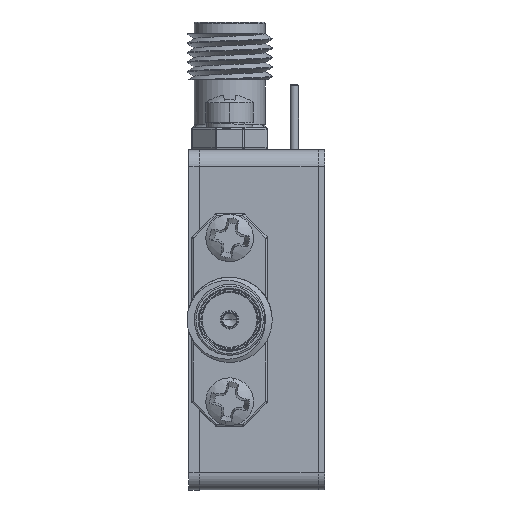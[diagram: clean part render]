
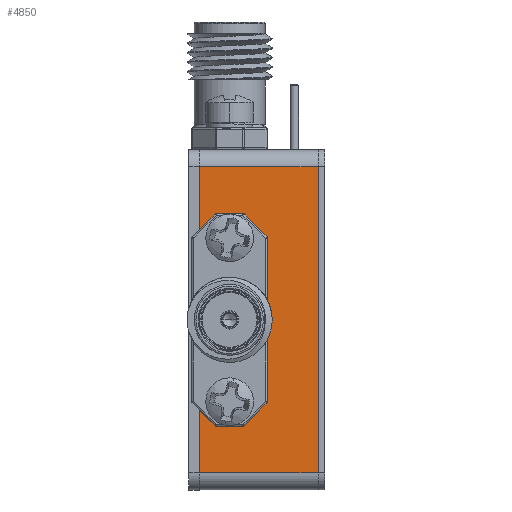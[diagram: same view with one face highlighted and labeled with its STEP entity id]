
A CAD part, left-side view. The second image highlights one B-rep face of the part: STEP entity #4850.
In plain terms, the highlighted planar face has unit normal (-1, 0, 0).
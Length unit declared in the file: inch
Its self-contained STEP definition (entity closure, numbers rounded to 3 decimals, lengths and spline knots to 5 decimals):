
#214 = AXIS2_PLACEMENT_3D ( 'NONE', #13794, #3948, #15444 ) ;
#245 = VERTEX_POINT ( 'NONE', #17155 ) ;
#404 = DIRECTION ( 'NONE',  ( -1., 0., 0. ) ) ;
#413 = DIRECTION ( 'NONE',  ( 0., 0., 1. ) ) ;
#769 = EDGE_LOOP ( 'NONE', ( #6585, #4241 ) ) ;
#1251 = DIRECTION ( 'NONE',  ( -1., 0., 0. ) ) ;
#1407 = EDGE_CURVE ( 'NONE', #6520, #12558, #18085, .T. ) ;
#1644 = EDGE_CURVE ( 'NONE', #12558, #13132, #5202, .T. ) ;
#1736 = CIRCLE ( 'NONE', #6338, 0.035 ) ;
#1832 = VECTOR ( 'NONE', #6078, 39.37008 ) ;
#2380 = CARTESIAN_POINT ( 'NONE',  ( -0.5, -0.089, 0. ) ) ;
#2520 = ORIENTED_EDGE ( 'NONE', *, *, #4336, .F. ) ;
#3089 = CARTESIAN_POINT ( 'NONE',  ( -0.5, 0., -0.45 ) ) ;
#3103 = EDGE_LOOP ( 'NONE', ( #6677, #18774 ) ) ;
#3257 = ORIENTED_EDGE ( 'NONE', *, *, #1407, .T. ) ;
#3661 = VERTEX_POINT ( 'NONE', #8922 ) ;
#3841 = FACE_BOUND ( 'NONE', #20204, .T. ) ;
#3948 = DIRECTION ( 'NONE',  ( -1., 0., 0. ) ) ;
#3987 = DIRECTION ( 'NONE',  ( 0., 0., 1. ) ) ;
#4006 = DIRECTION ( 'NONE',  ( 0., 0., 1. ) ) ;
#4171 = EDGE_CURVE ( 'NONE', #7587, #20452, #12606, .T. ) ;
#4201 = AXIS2_PLACEMENT_3D ( 'NONE', #2380, #13846, #4006 ) ;
#4241 = ORIENTED_EDGE ( 'NONE', *, *, #14787, .F. ) ;
#4336 = EDGE_CURVE ( 'NONE', #6520, #5820, #6166, .T. ) ;
#4850 = ADVANCED_FACE ( 'NONE', ( #16451, #20801, #3841, #17460 ), #12175, .T. ) ;
#5202 = LINE ( 'NONE', #20135, #13428 ) ;
#5494 = DIRECTION ( 'NONE',  ( -1., 0., 0. ) ) ;
#5514 = EDGE_CURVE ( 'NONE', #13132, #5820, #16941, .T. ) ;
#5646 = VERTEX_POINT ( 'NONE', #7198 ) ;
#5650 = AXIS2_PLACEMENT_3D ( 'NONE', #17000, #7144, #18670 ) ;
#5820 = VERTEX_POINT ( 'NONE', #15875 ) ;
#5915 = ORIENTED_EDGE ( 'NONE', *, *, #5514, .T. ) ;
#6078 = DIRECTION ( 'NONE',  ( 0., 0., 1. ) ) ;
#6154 = EDGE_CURVE ( 'NONE', #20452, #7587, #20761, .T. ) ;
#6166 = LINE ( 'NONE', #12554, #1832 ) ;
#6338 = AXIS2_PLACEMENT_3D ( 'NONE', #10163, #404, #11809 ) ;
#6449 = CIRCLE ( 'NONE', #9572, 0.035 ) ;
#6520 = VERTEX_POINT ( 'NONE', #3089 ) ;
#6585 = ORIENTED_EDGE ( 'NONE', *, *, #11085, .F. ) ;
#6654 = VECTOR ( 'NONE', #8269, 39.37008 ) ;
#6677 = ORIENTED_EDGE ( 'NONE', *, *, #6154, .F. ) ;
#7138 = ORIENTED_EDGE ( 'NONE', *, *, #1644, .T. ) ;
#7144 = DIRECTION ( 'NONE',  ( -1., 0., 0. ) ) ;
#7198 = CARTESIAN_POINT ( 'NONE',  ( -0.5, -0.089, -0.2055 ) ) ;
#7587 = VERTEX_POINT ( 'NONE', #12657 ) ;
#7971 = CARTESIAN_POINT ( 'NONE',  ( -0.5, -0.349, -0.45 ) ) ;
#8269 = DIRECTION ( 'NONE',  ( 0., 1., 0. ) ) ;
#8922 = CARTESIAN_POINT ( 'NONE',  ( -0.5, -0.089, 0.2755 ) ) ;
#9097 = AXIS2_PLACEMENT_3D ( 'NONE', #11017, #1251, #12689 ) ;
#9572 = AXIS2_PLACEMENT_3D ( 'NONE', #20029, #10173, #413 ) ;
#10163 = CARTESIAN_POINT ( 'NONE',  ( -0.5, -0.089, 0.2405 ) ) ;
#10173 = DIRECTION ( 'NONE',  ( -1., 0., 0. ) ) ;
#10268 = DIRECTION ( 'NONE',  ( 0., 0., 1. ) ) ;
#10544 = VERTEX_POINT ( 'NONE', #14874 ) ;
#10572 = CARTESIAN_POINT ( 'NONE',  ( -0.5, -0.349, 0.45 ) ) ;
#10689 = CIRCLE ( 'NONE', #5650, 0.035 ) ;
#11017 = CARTESIAN_POINT ( 'NONE',  ( -0.5, -0.089, -0.2405 ) ) ;
#11085 = EDGE_CURVE ( 'NONE', #5646, #245, #6449, .T. ) ;
#11809 = DIRECTION ( 'NONE',  ( 0., 0., 1. ) ) ;
#12175 = PLANE ( 'NONE',  #16615 ) ;
#12554 = CARTESIAN_POINT ( 'NONE',  ( -0.5, 0., 0.5 ) ) ;
#12558 = VERTEX_POINT ( 'NONE', #17356 ) ;
#12606 = CIRCLE ( 'NONE', #4201, 0.049 ) ;
#12657 = CARTESIAN_POINT ( 'NONE',  ( -0.5, -0.089, -0.049 ) ) ;
#12689 = DIRECTION ( 'NONE',  ( 0., 0., 1. ) ) ;
#13132 = VERTEX_POINT ( 'NONE', #10572 ) ;
#13428 = VECTOR ( 'NONE', #10268, 39.37008 ) ;
#13687 = VECTOR ( 'NONE', #19497, 39.37008 ) ;
#13794 = CARTESIAN_POINT ( 'NONE',  ( -0.5, -0.089, 0. ) ) ;
#13823 = CARTESIAN_POINT ( 'NONE',  ( -0.5, -0.349, 0.5 ) ) ;
#13846 = DIRECTION ( 'NONE',  ( -1., 0., 0. ) ) ;
#14787 = EDGE_CURVE ( 'NONE', #245, #5646, #18716, .T. ) ;
#14871 = CARTESIAN_POINT ( 'NONE',  ( -0.5, -0.349, 0.45 ) ) ;
#14874 = CARTESIAN_POINT ( 'NONE',  ( -0.5, -0.089, 0.2055 ) ) ;
#15390 = CARTESIAN_POINT ( 'NONE',  ( -0.5, -0.089, 0.049 ) ) ;
#15444 = DIRECTION ( 'NONE',  ( 0., 0., 1. ) ) ;
#15560 = EDGE_CURVE ( 'NONE', #10544, #3661, #10689, .T. ) ;
#15875 = CARTESIAN_POINT ( 'NONE',  ( -0.5, 0., 0.45 ) ) ;
#15886 = EDGE_CURVE ( 'NONE', #3661, #10544, #1736, .T. ) ;
#16451 = FACE_BOUND ( 'NONE', #3103, .T. ) ;
#16615 = AXIS2_PLACEMENT_3D ( 'NONE', #13823, #5494, #3987 ) ;
#16941 = LINE ( 'NONE', #14871, #6654 ) ;
#17000 = CARTESIAN_POINT ( 'NONE',  ( -0.5, -0.089, 0.2405 ) ) ;
#17155 = CARTESIAN_POINT ( 'NONE',  ( -0.5, -0.089, -0.2755 ) ) ;
#17356 = CARTESIAN_POINT ( 'NONE',  ( -0.5, -0.349, -0.45 ) ) ;
#17460 = FACE_OUTER_BOUND ( 'NONE', #18995, .T. ) ;
#17822 = ORIENTED_EDGE ( 'NONE', *, *, #15886, .F. ) ;
#18085 = LINE ( 'NONE', #7971, #13687 ) ;
#18670 = DIRECTION ( 'NONE',  ( 0., 0., 1. ) ) ;
#18716 = CIRCLE ( 'NONE', #9097, 0.035 ) ;
#18774 = ORIENTED_EDGE ( 'NONE', *, *, #4171, .F. ) ;
#18930 = ORIENTED_EDGE ( 'NONE', *, *, #15560, .F. ) ;
#18995 = EDGE_LOOP ( 'NONE', ( #2520, #3257, #7138, #5915 ) ) ;
#19497 = DIRECTION ( 'NONE',  ( 0., -1., 0. ) ) ;
#20029 = CARTESIAN_POINT ( 'NONE',  ( -0.5, -0.089, -0.2405 ) ) ;
#20135 = CARTESIAN_POINT ( 'NONE',  ( -0.5, -0.349, 0.5 ) ) ;
#20204 = EDGE_LOOP ( 'NONE', ( #17822, #18930 ) ) ;
#20452 = VERTEX_POINT ( 'NONE', #15390 ) ;
#20761 = CIRCLE ( 'NONE', #214, 0.049 ) ;
#20801 = FACE_BOUND ( 'NONE', #769, .T. ) ;
